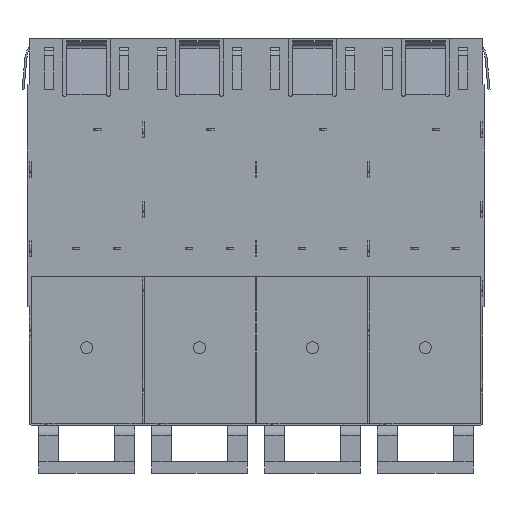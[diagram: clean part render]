
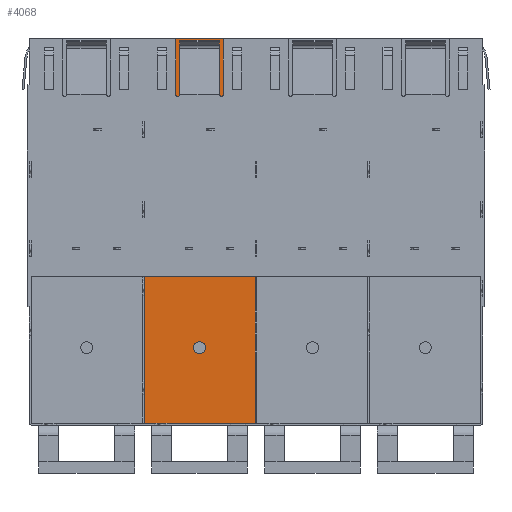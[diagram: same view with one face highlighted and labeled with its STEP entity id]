
A CAD part, front view. The second image highlights one B-rep face of the part: STEP entity #4068.
In plain terms, the highlighted planar face has unit normal (0, -1, 0).
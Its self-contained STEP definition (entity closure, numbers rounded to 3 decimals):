
#4068=ADVANCED_FACE('',(#6863,#6864,#6865),#5127,.F.);
#5127=PLANE('',#35676);
#5360=CIRCLE('',#33142,0.75);
#5362=CIRCLE('',#33145,0.75);
#6213=CIRCLE('',#34912,0.75);
#6214=CIRCLE('',#34914,0.75);
#6863=FACE_BOUND('',#8402,.T.);
#6864=FACE_BOUND('',#8403,.T.);
#6865=FACE_BOUND('',#8404,.T.);
#8402=EDGE_LOOP('',(#16291,#16292));
#8403=EDGE_LOOP('',(#16293,#16294));
#8404=EDGE_LOOP('',(#16295,#16296,#16297,#16298));
#16291=ORIENTED_EDGE('',*,*,#21883,.T.);
#16292=ORIENTED_EDGE('',*,*,#24576,.T.);
#16293=ORIENTED_EDGE('',*,*,#21887,.T.);
#16294=ORIENTED_EDGE('',*,*,#24575,.T.);
#16295=ORIENTED_EDGE('',*,*,#25735,.F.);
#16296=ORIENTED_EDGE('',*,*,#25737,.T.);
#16297=ORIENTED_EDGE('',*,*,#25738,.T.);
#16298=ORIENTED_EDGE('',*,*,#25739,.F.);
#18723=VERTEX_POINT('',#46647);
#18724=VERTEX_POINT('',#46649);
#18727=VERTEX_POINT('',#46656);
#18728=VERTEX_POINT('',#46658);
#21186=VERTEX_POINT('',#55610);
#21187=VERTEX_POINT('',#55612);
#21188=VERTEX_POINT('',#55616);
#21189=VERTEX_POINT('',#55618);
#21883=EDGE_CURVE('',#18724,#18723,#5360,.T.);
#21887=EDGE_CURVE('',#18728,#18727,#5362,.T.);
#24575=EDGE_CURVE('',#18727,#18728,#6213,.T.);
#24576=EDGE_CURVE('',#18723,#18724,#6214,.T.);
#25735=EDGE_CURVE('',#21186,#21187,#29303,.T.);
#25737=EDGE_CURVE('',#21186,#21188,#29305,.T.);
#25738=EDGE_CURVE('',#21188,#21189,#29306,.T.);
#25739=EDGE_CURVE('',#21187,#21189,#29307,.T.);
#29303=LINE('',#55611,#32601);
#29305=LINE('',#55615,#32603);
#29306=LINE('',#55617,#32604);
#29307=LINE('',#55619,#32605);
#32601=VECTOR('',#44391,1.);
#32603=VECTOR('',#44395,1.);
#32604=VECTOR('',#44396,1.);
#32605=VECTOR('',#44397,1.);
#33142=AXIS2_PLACEMENT_3D('',#46648,#36676,#36677);
#33145=AXIS2_PLACEMENT_3D('',#46657,#36684,#36685);
#34912=AXIS2_PLACEMENT_3D('',#53289,#42013,#42014);
#34914=AXIS2_PLACEMENT_3D('',#53291,#42017,#42018);
#35676=AXIS2_PLACEMENT_3D('',#55620,#44398,#44399);
#36676=DIRECTION('',(0.,1.,0.));
#36677=DIRECTION('',(0.,0.,1.));
#36684=DIRECTION('',(0.,1.,0.));
#36685=DIRECTION('',(0.,0.,1.));
#42013=DIRECTION('',(0.,1.,0.));
#42014=DIRECTION('',(0.,0.,1.));
#42017=DIRECTION('',(0.,1.,0.));
#42018=DIRECTION('',(0.,0.,1.));
#44391=DIRECTION('',(0.,0.,-1.));
#44395=DIRECTION('',(-1.,0.,0.));
#44396=DIRECTION('',(0.,0.,-1.));
#44397=DIRECTION('',(-1.,0.,0.));
#44398=DIRECTION('',(0.,1.,0.));
#44399=DIRECTION('',(0.,0.,-1.));
#46647=CARTESIAN_POINT('',(-7.125,9.2,-21.725));
#46648=CARTESIAN_POINT('',(-7.125,9.2,-20.975));
#46649=CARTESIAN_POINT('',(-7.125,9.2,-20.225));
#46656=CARTESIAN_POINT('',(-7.125,9.2,-39.725));
#46657=CARTESIAN_POINT('',(-7.125,9.2,-38.975));
#46658=CARTESIAN_POINT('',(-7.125,9.2,-38.225));
#53289=CARTESIAN_POINT('',(-7.125,9.2,-38.975));
#53291=CARTESIAN_POINT('',(-7.125,9.2,-20.975));
#55610=CARTESIAN_POINT('',(-0.125,9.2,0.));
#55611=CARTESIAN_POINT('',(-0.125,9.2,8.953));
#55612=CARTESIAN_POINT('',(-0.125,9.2,-48.5));
#55615=CARTESIAN_POINT('',(28.325,9.2,0.));
#55616=CARTESIAN_POINT('',(-14.125,9.2,0.));
#55617=CARTESIAN_POINT('',(-14.125,9.2,8.953));
#55618=CARTESIAN_POINT('',(-14.125,9.2,-48.5));
#55619=CARTESIAN_POINT('',(28.325,9.2,-48.5));
#55620=CARTESIAN_POINT('',(28.325,9.2,-106.201));
